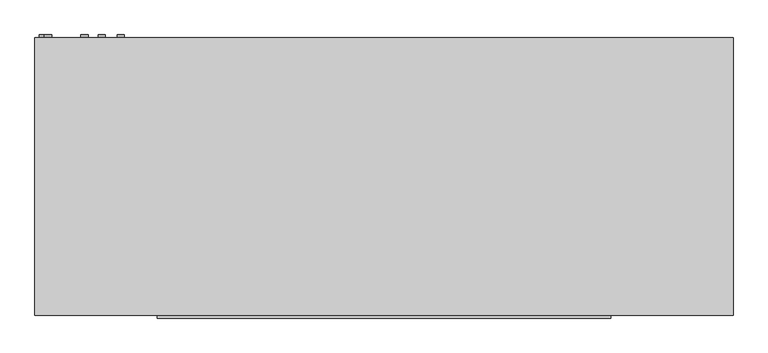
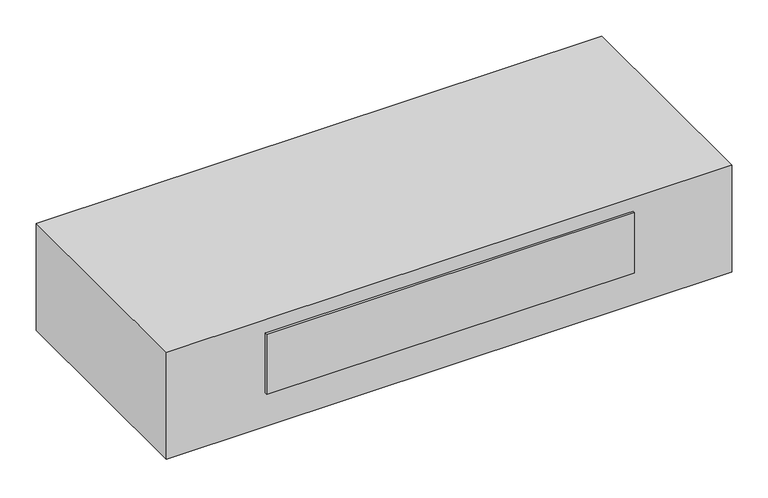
"""IFC4 building model written with IfcOpenShell, lengths in millimetres: proxy geometry, Exposed_Horizontal_Fan_Coil_Unit_-_42CGB_-_CARRIER_-_4-Pipe_FS-BR_LH_2022 : Size 08 - 277v/60Hz/1Ph - 4/1 Coil."""

from ifc_helpers import new_model, si_unit, point, frame, frame_2d, origin, place, context, project, spatial, polyline, circle_curve, trimmed, segment, composite_curve, outline, extrude, source, transform, mapped, element, save


def mechanical_equipment_fc63b11a(model_context):
    return source(origin(), model_context, "Body", "SweptSolid", [
        extrude(outline(composite_curve([segment(trimmed(circle_curve(frame_2d((-261.434158, -590.7546393)), 9.525), [point((-261.434158, -581.2296393))], [point((-261.434158, -600.2796393))], False, "CARTESIAN"), True, "CONTINUOUS"), segment(trimmed(circle_curve(frame_2d((-261.434158, -590.7546393)), 9.525), [point((-261.434158, -600.2796393))], [point((-261.434158, -581.2296393))], False, "CARTESIAN"), True, "CONTINUOUS")], self_intersect=False)), frame((0.0, 65.0875, 0.0), z_axis=(0.0, 1.0, 0.0), x_axis=(0.0, 0.0, 1.0)), (0.0, 0.0, 1.0), 6.35),
        extrude(outline(composite_curve([segment(trimmed(circle_curve(frame_2d((-85.725, -581.025)), 7.9375), [point((-85.725, -573.0875))], [point((-85.725, -588.9625))], False, "CARTESIAN"), True, "CONTINUOUS"), segment(trimmed(circle_curve(frame_2d((-85.725, -581.025)), 7.9375), [point((-85.725, -588.9625))], [point((-85.725, -573.0875))], False, "CARTESIAN"), True, "CONTINUOUS")], self_intersect=False)), frame((0.0, 65.0875, 0.0), z_axis=(0.0, 1.0, 0.0), x_axis=(0.0, 0.0, 1.0)), (0.0, 0.0, 1.0), 6.35),
        extrude(outline(composite_curve([segment(trimmed(circle_curve(frame_2d((-44.45, -501.65)), 7.9375), [point((-44.45, -493.7125))], [point((-44.45, -509.5875))], False, "CARTESIAN"), True, "CONTINUOUS"), segment(trimmed(circle_curve(frame_2d((-44.45, -501.65)), 7.9375), [point((-44.45, -509.5875))], [point((-44.45, -493.7125))], False, "CARTESIAN"), True, "CONTINUOUS")], self_intersect=False)), frame((0.0, 65.0875, 0.0), z_axis=(0.0, 1.0, 0.0), x_axis=(0.0, 0.0, 1.0)), (0.0, 0.0, 1.0), 6.35),
        extrude(outline(composite_curve([segment(trimmed(circle_curve(frame_2d((-95.25, -463.55)), 7.9375), [point((-95.25, -455.6125))], [point((-95.25, -471.4875))], False, "CARTESIAN"), True, "CONTINUOUS"), segment(trimmed(circle_curve(frame_2d((-95.25, -463.55)), 7.9375), [point((-95.25, -471.4875))], [point((-95.25, -455.6125))], False, "CARTESIAN"), True, "CONTINUOUS")], self_intersect=False)), frame((0.0, 65.0875, 0.0), z_axis=(0.0, 1.0, 0.0), x_axis=(0.0, 0.0, 1.0)), (0.0, 0.0, 1.0), 6.35),
        extrude(outline(composite_curve([segment(trimmed(circle_curve(frame_2d((-60.325, -422.275)), 7.9375), [point((-60.325, -414.3375))], [point((-60.325, -430.2125))], False, "CARTESIAN"), True, "CONTINUOUS"), segment(trimmed(circle_curve(frame_2d((-60.325, -422.275)), 7.9375), [point((-60.325, -430.2125))], [point((-60.325, -414.3375))], False, "CARTESIAN"), True, "CONTINUOUS")], self_intersect=False)), frame((0.0, 65.0875, 0.0), z_axis=(0.0, 1.0, 0.0), x_axis=(0.0, 0.0, 1.0)), (0.0, 0.0, 1.0), 6.35),
        extrude(outline(polyline([(-609.6, 65.0875), (914.4, 65.0875), (914.4, -541.3375), (-609.6, -541.3375), (-609.6, 65.0875)])), frame((0.0, 0.0, -304.8), z_axis=(0.0, 0.0, 1.0), x_axis=(1.0, 0.0, 0.0)), (0.0, 0.0, 1.0), 304.8),
        extrude(outline(polyline([(647.7, -547.6875), (-342.9, -547.6875), (-342.9, -541.3375), (647.7, -541.3375), (647.7, -547.6875)])), frame((0.0, 0.0, -209.55), z_axis=(0.0, 0.0, 1.0), x_axis=(1.0, 0.0, 0.0)), (0.0, 0.0, 1.0), 171.45),
        extrude(outline(polyline([(673.1, -11.1125), (673.1, -265.1125), (-368.3, -265.1125), (-368.3, -11.1125), (673.1, -11.1125)])), frame((0.0, 0.0, -311.15), z_axis=(0.0, 0.0, 1.0), x_axis=(1.0, 0.0, 0.0)), (0.0, 0.0, 1.0), 6.35),
    ])


if __name__ == "__main__":
    model = new_model("IFC4")
    model_context = context("Model", 3, world=origin())
    ifc_project = project(units=[si_unit("LENGTHUNIT", "METRE", prefix="MILLI")], contexts=[model_context])
    site = spatial("IfcSite", under=ifc_project)
    building = spatial("IfcBuilding", under=site)
    placement = place(None, origin())
    mechanical_equipment_shape = mechanical_equipment_fc63b11a(model_context)
    element("IfcBuildingElementProxy", 1, Name="Exposed_Horizontal_Fan_Coil_Unit_-_42CGB_-_CARRIER_-_4-Pipe_FS-BR_LH_2022 : Size 08 - 277v/60Hz/1Ph - 4/1 Coil", ObjectType="Exposed_Horizontal_Fan_Coil_Unit_-_42CGB_-_CARRIER_-_4-Pipe_FS-BR_LH_2022 : Size 08 - 277v/60Hz/1Ph - 4/1 Coil", at=placement, inside=building, context=model_context, shape_type="MappedRepresentation", body=[
        mapped(mechanical_equipment_shape, transform((0.0, 0.0, 0.0), x_axis=(1.0, 0.0, 0.0), y_axis=(0.0, 1.0, 0.0), z_axis=(0.0, 0.0, 1.0))),
    ])
    save(model, "model.ifc")
